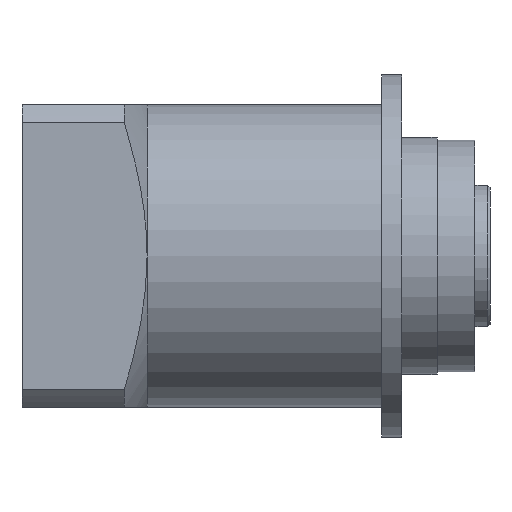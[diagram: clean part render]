
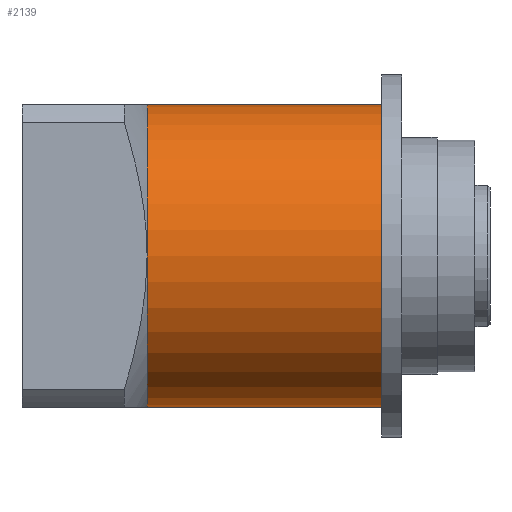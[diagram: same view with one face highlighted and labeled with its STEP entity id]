
A CAD part, front view. The second image highlights one B-rep face of the part: STEP entity #2139.
In plain terms, the highlighted cylindrical face has radius 30 mm (diameter 60 mm), a partial arc.
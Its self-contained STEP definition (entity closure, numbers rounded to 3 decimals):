
#50 = AXIS2_PLACEMENT_3D ( 'NONE', #1591, #930, #2260 ) ;
#159 = LINE ( 'NONE', #701, #254 ) ;
#254 = VECTOR ( 'NONE', #696, 1000. ) ;
#259 = CARTESIAN_POINT ( 'NONE',  ( -4., 0., 30. ) ) ;
#402 = LINE ( 'NONE', #2887, #4070 ) ;
#474 = EDGE_CURVE ( 'NONE', #1084, #4294, #2793, .T. ) ;
#638 = EDGE_CURVE ( 'NONE', #2759, #2633, #159, .T. ) ;
#696 = DIRECTION ( 'NONE',  ( -1., 0., 0. ) ) ;
#701 = CARTESIAN_POINT ( 'NONE',  ( 0., 0., -30. ) ) ;
#764 = EDGE_CURVE ( 'NONE', #3577, #1084, #402, .T. ) ;
#781 = CARTESIAN_POINT ( 'NONE',  ( -4., 0., 0. ) ) ;
#802 = CARTESIAN_POINT ( 'NONE',  ( -4., 0., -30. ) ) ;
#842 = FACE_OUTER_BOUND ( 'NONE', #2316, .T. ) ;
#930 = DIRECTION ( 'NONE',  ( -1., 0., 0. ) ) ;
#1084 = VERTEX_POINT ( 'NONE', #259 ) ;
#1144 = DIRECTION ( 'NONE',  ( 0., 0., -1. ) ) ;
#1591 = CARTESIAN_POINT ( 'NONE',  ( 0., 0., 0. ) ) ;
#1625 = CIRCLE ( 'NONE', #3918, 30. ) ;
#1683 = CARTESIAN_POINT ( 'NONE',  ( 42.5, 0., 0. ) ) ;
#1924 = ORIENTED_EDGE ( 'NONE', *, *, #2993, .T. ) ;
#2022 = DIRECTION ( 'NONE',  ( 0., 0., 1. ) ) ;
#2139 = ADVANCED_FACE ( 'NONE', ( #842 ), #3341, .T. ) ;
#2260 = DIRECTION ( 'NONE',  ( 0., 0., 1. ) ) ;
#2316 = EDGE_LOOP ( 'NONE', ( #2995, #1924, #2895, #3572, #3116 ) ) ;
#2320 = DIRECTION ( 'NONE',  ( 0., 0., -1. ) ) ;
#2335 = DIRECTION ( 'NONE',  ( 1., 0., 0. ) ) ;
#2352 = CARTESIAN_POINT ( 'NONE',  ( -4., 0., 0. ) ) ;
#2372 = CARTESIAN_POINT ( 'NONE',  ( 42.5, 0., 30. ) ) ;
#2499 = AXIS2_PLACEMENT_3D ( 'NONE', #781, #3112, #1144 ) ;
#2517 = AXIS2_PLACEMENT_3D ( 'NONE', #2352, #2335, #2320 ) ;
#2633 = VERTEX_POINT ( 'NONE', #802 ) ;
#2746 = CARTESIAN_POINT ( 'NONE',  ( -4., -30., 0. ) ) ;
#2759 = VERTEX_POINT ( 'NONE', #2897 ) ;
#2793 = CIRCLE ( 'NONE', #2517, 30. ) ;
#2887 = CARTESIAN_POINT ( 'NONE',  ( 0., 0., 30. ) ) ;
#2895 = ORIENTED_EDGE ( 'NONE', *, *, #764, .T. ) ;
#2897 = CARTESIAN_POINT ( 'NONE',  ( 42.5, 0., -30. ) ) ;
#2930 = DIRECTION ( 'NONE',  ( -1., 0., 0. ) ) ;
#2993 = EDGE_CURVE ( 'NONE', #2759, #3577, #1625, .T. ) ;
#2995 = ORIENTED_EDGE ( 'NONE', *, *, #638, .F. ) ;
#3112 = DIRECTION ( 'NONE',  ( 1., 0., 0. ) ) ;
#3116 = ORIENTED_EDGE ( 'NONE', *, *, #3182, .T. ) ;
#3182 = EDGE_CURVE ( 'NONE', #4294, #2633, #4313, .T. ) ;
#3341 = CYLINDRICAL_SURFACE ( 'NONE', #50, 30. ) ;
#3572 = ORIENTED_EDGE ( 'NONE', *, *, #474, .T. ) ;
#3577 = VERTEX_POINT ( 'NONE', #2372 ) ;
#3918 = AXIS2_PLACEMENT_3D ( 'NONE', #1683, #4000, #2022 ) ;
#4000 = DIRECTION ( 'NONE',  ( -1., 0., 0. ) ) ;
#4070 = VECTOR ( 'NONE', #2930, 1000. ) ;
#4294 = VERTEX_POINT ( 'NONE', #2746 ) ;
#4313 = CIRCLE ( 'NONE', #2499, 30. ) ;
